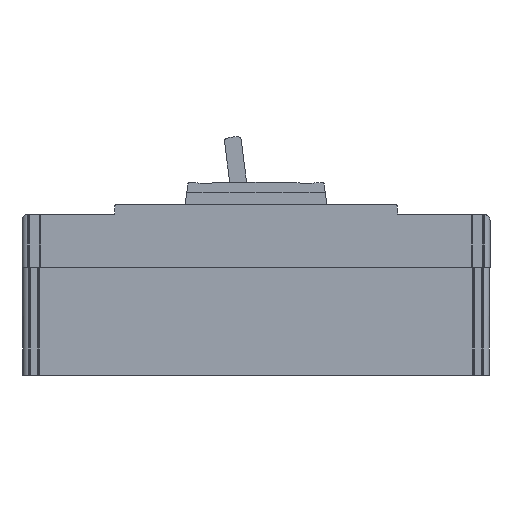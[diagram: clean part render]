
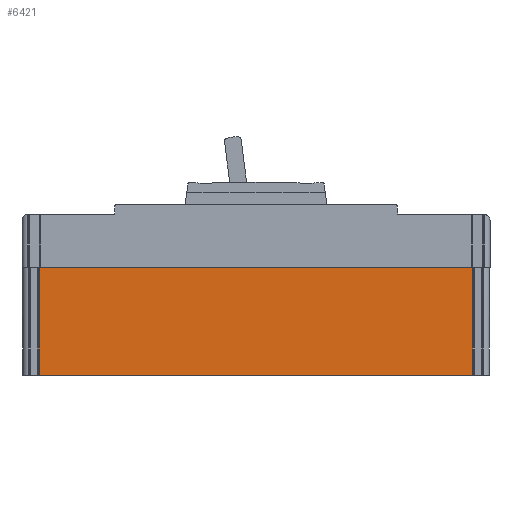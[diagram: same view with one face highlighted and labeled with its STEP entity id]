
A CAD part, left-side view. The second image highlights one B-rep face of the part: STEP entity #6421.
In plain terms, the highlighted planar face has unit normal (-1, 0, 0).
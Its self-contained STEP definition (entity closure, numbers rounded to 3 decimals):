
#104 = LINE ( 'NONE', #11082, #2948 ) ;
#750 = LINE ( 'NONE', #13799, #13318 ) ;
#771 = VECTOR ( 'NONE', #15325, 1000. ) ;
#896 = ORIENTED_EDGE ( 'NONE', *, *, #3232, .F. ) ;
#1508 = FACE_OUTER_BOUND ( 'NONE', #7721, .T. ) ;
#1548 = LINE ( 'NONE', #15038, #12421 ) ;
#1745 = ORIENTED_EDGE ( 'NONE', *, *, #5061, .F. ) ;
#2563 = ORIENTED_EDGE ( 'NONE', *, *, #13101, .F. ) ;
#2879 = LINE ( 'NONE', #4547, #771 ) ;
#2948 = VECTOR ( 'NONE', #14574, 1000. ) ;
#3050 = DIRECTION ( 'NONE',  ( 0., 1., 0. ) ) ;
#3162 = VECTOR ( 'NONE', #3611, 1000. ) ;
#3232 = EDGE_CURVE ( 'NONE', #13542, #4421, #3537, .T. ) ;
#3447 = VERTEX_POINT ( 'NONE', #7139 ) ;
#3537 = LINE ( 'NONE', #14099, #12468 ) ;
#3611 = DIRECTION ( 'NONE',  ( 0., -1., 0. ) ) ;
#3908 = EDGE_CURVE ( 'NONE', #10711, #3447, #104, .T. ) ;
#4421 = VERTEX_POINT ( 'NONE', #10838 ) ;
#4547 = CARTESIAN_POINT ( 'NONE',  ( -52.2, 76.4, 202.231 ) ) ;
#4759 = AXIS2_PLACEMENT_3D ( 'NONE', #15504, #8257, #13379 ) ;
#5061 = EDGE_CURVE ( 'NONE', #6921, #13542, #1548, .T. ) ;
#5421 = DIRECTION ( 'NONE',  ( 0., 0., -1. ) ) ;
#5743 = PLANE ( 'NONE',  #4759 ) ;
#6017 = ORIENTED_EDGE ( 'NONE', *, *, #15756, .T. ) ;
#6421 = ADVANCED_FACE ( 'NONE', ( #1508 ), #5743, .T. ) ;
#6920 = CARTESIAN_POINT ( 'NONE',  ( -52.2, -76.4, 38. ) ) ;
#6921 = VERTEX_POINT ( 'NONE', #6920 ) ;
#7139 = CARTESIAN_POINT ( 'NONE',  ( -52.2, -76.083, 38. ) ) ;
#7712 = ORIENTED_EDGE ( 'NONE', *, *, #3908, .F. ) ;
#7721 = EDGE_LOOP ( 'NONE', ( #6017, #896, #1745, #2563, #7712, #13826 ) ) ;
#7776 = CARTESIAN_POINT ( 'NONE',  ( -52.2, 76.4, 38. ) ) ;
#8257 = DIRECTION ( 'NONE',  ( -1., 0., 0. ) ) ;
#8289 = VERTEX_POINT ( 'NONE', #7776 ) ;
#9431 = LINE ( 'NONE', #13427, #3162 ) ;
#9694 = CARTESIAN_POINT ( 'NONE',  ( -52.2, -76.4, 0. ) ) ;
#10226 = EDGE_CURVE ( 'NONE', #8289, #10711, #750, .T. ) ;
#10711 = VERTEX_POINT ( 'NONE', #14686 ) ;
#10838 = CARTESIAN_POINT ( 'NONE',  ( -52.2, 76.4, 0. ) ) ;
#11082 = CARTESIAN_POINT ( 'NONE',  ( -52.2, 0., 38. ) ) ;
#11266 = DIRECTION ( 'NONE',  ( 0., -1., 0. ) ) ;
#12421 = VECTOR ( 'NONE', #5421, 1000. ) ;
#12468 = VECTOR ( 'NONE', #3050, 1000. ) ;
#13101 = EDGE_CURVE ( 'NONE', #3447, #6921, #9431, .T. ) ;
#13318 = VECTOR ( 'NONE', #11266, 1000. ) ;
#13379 = DIRECTION ( 'NONE',  ( 0., 0., 1. ) ) ;
#13427 = CARTESIAN_POINT ( 'NONE',  ( -52.2, 0., 38. ) ) ;
#13542 = VERTEX_POINT ( 'NONE', #9694 ) ;
#13799 = CARTESIAN_POINT ( 'NONE',  ( -52.2, 0., 38. ) ) ;
#13826 = ORIENTED_EDGE ( 'NONE', *, *, #10226, .F. ) ;
#14099 = CARTESIAN_POINT ( 'NONE',  ( -52.2, 0., 0. ) ) ;
#14574 = DIRECTION ( 'NONE',  ( 0., -1., 0. ) ) ;
#14686 = CARTESIAN_POINT ( 'NONE',  ( -52.2, 76.083, 38. ) ) ;
#15038 = CARTESIAN_POINT ( 'NONE',  ( -52.2, -76.4, 202.231 ) ) ;
#15325 = DIRECTION ( 'NONE',  ( 0., 0., -1. ) ) ;
#15504 = CARTESIAN_POINT ( 'NONE',  ( -52.2, 0., 202.231 ) ) ;
#15756 = EDGE_CURVE ( 'NONE', #8289, #4421, #2879, .T. ) ;
